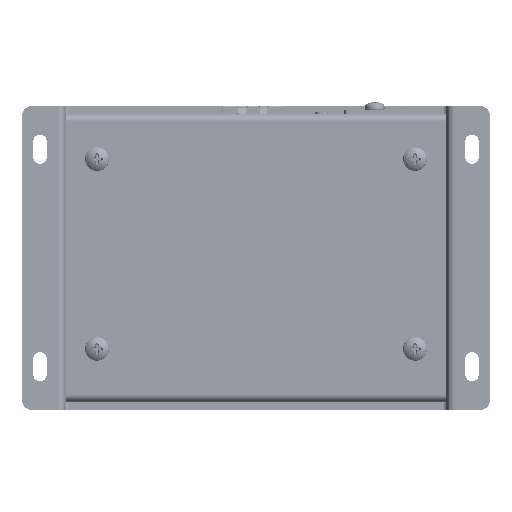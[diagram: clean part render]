
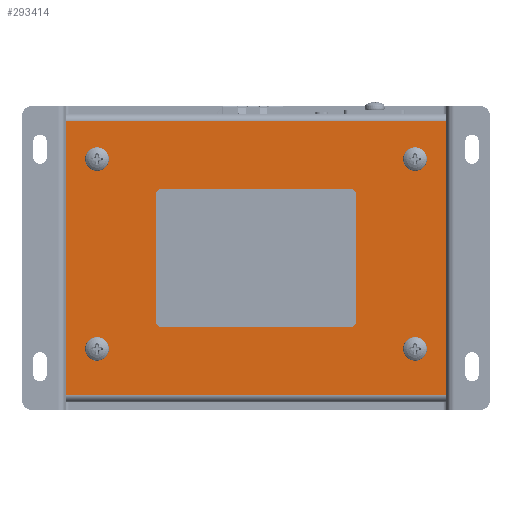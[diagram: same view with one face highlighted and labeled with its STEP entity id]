
A CAD part, front view. The second image highlights one B-rep face of the part: STEP entity #293414.
In plain terms, the highlighted planar face has unit normal (0, -1, 0).
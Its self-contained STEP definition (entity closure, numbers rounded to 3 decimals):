
#4618 = CIRCLE ( 'NONE', #82271, 1.7 ) ;
#7495 = EDGE_CURVE ( 'NONE', #79572, #79572, #20839, .T. ) ;
#7861 = CARTESIAN_POINT ( 'NONE',  ( 48.225, 8.231, 11.48 ) ) ;
#14317 = CARTESIAN_POINT ( 'NONE',  ( 48.225, 8.231, -58.609 ) ) ;
#16537 = CIRCLE ( 'NONE', #260176, 1.7 ) ;
#18491 = CARTESIAN_POINT ( 'NONE',  ( -47.775, 8.231, 11.48 ) ) ;
#18718 = VERTEX_POINT ( 'NONE', #250971 ) ;
#20186 = CARTESIAN_POINT ( 'NONE',  ( 40.425, 8.231, -47.02 ) ) ;
#20839 = CIRCLE ( 'NONE', #131377, 1.7 ) ;
#27580 = CARTESIAN_POINT ( 'NONE',  ( -39.975, 8.231, -0.72 ) ) ;
#32234 = CARTESIAN_POINT ( 'NONE',  ( 48.225, 8.231, 10.569 ) ) ;
#41285 = VERTEX_POINT ( 'NONE', #91555 ) ;
#43496 = EDGE_LOOP ( 'NONE', ( #131025, #273968, #323145, #119447 ) ) ;
#56682 = ORIENTED_EDGE ( 'NONE', *, *, #113615, .F. ) ;
#61169 = VERTEX_POINT ( 'NONE', #32234 ) ;
#63273 = PLANE ( 'NONE',  #112233 ) ;
#67077 = DIRECTION ( 'NONE',  ( 0., -1., 0. ) ) ;
#70529 = DIRECTION ( 'NONE',  ( -1., 0., 0. ) ) ;
#72715 = ORIENTED_EDGE ( 'NONE', *, *, #7495, .F. ) ;
#74878 = EDGE_CURVE ( 'NONE', #61169, #143402, #240065, .T. ) ;
#79572 = VERTEX_POINT ( 'NONE', #27580 ) ;
#82271 = AXIS2_PLACEMENT_3D ( 'NONE', #20186, #67077, #231556 ) ;
#85794 = FACE_BOUND ( 'NONE', #342870, .T. ) ;
#91555 = CARTESIAN_POINT ( 'NONE',  ( -39.975, 8.231, -48.72 ) ) ;
#92273 = DIRECTION ( 'NONE',  ( -1., 0., 0. ) ) ;
#94809 = LINE ( 'NONE', #229898, #298476 ) ;
#107652 = ORIENTED_EDGE ( 'NONE', *, *, #308685, .F. ) ;
#112233 = AXIS2_PLACEMENT_3D ( 'NONE', #321479, #298914, #189805 ) ;
#113615 = EDGE_CURVE ( 'NONE', #271820, #271820, #16537, .T. ) ;
#115236 = FACE_BOUND ( 'NONE', #306475, .T. ) ;
#119447 = ORIENTED_EDGE ( 'NONE', *, *, #296561, .T. ) ;
#131025 = ORIENTED_EDGE ( 'NONE', *, *, #214830, .T. ) ;
#131377 = AXIS2_PLACEMENT_3D ( 'NONE', #184146, #210119, #156422 ) ;
#136063 = DIRECTION ( 'NONE',  ( 0., 0., -1. ) ) ;
#139525 = FACE_BOUND ( 'NONE', #255776, .T. ) ;
#143402 = VERTEX_POINT ( 'NONE', #327136 ) ;
#145525 = EDGE_CURVE ( 'NONE', #143402, #284491, #298533, .T. ) ;
#145602 = VERTEX_POINT ( 'NONE', #166889 ) ;
#151888 = DIRECTION ( 'NONE',  ( 0., 0., -1. ) ) ;
#156422 = DIRECTION ( 'NONE',  ( 0., 0., -1. ) ) ;
#166689 = CIRCLE ( 'NONE', #305181, 1.7 ) ;
#166889 = CARTESIAN_POINT ( 'NONE',  ( -47.775, 8.231, 10.569 ) ) ;
#168562 = DIRECTION ( 'NONE',  ( 0., -1., 0. ) ) ;
#174482 = LINE ( 'NONE', #18491, #339408 ) ;
#184146 = CARTESIAN_POINT ( 'NONE',  ( -39.975, 8.231, 0.98 ) ) ;
#189805 = DIRECTION ( 'NONE',  ( 0., 0., 1. ) ) ;
#206902 = EDGE_LOOP ( 'NONE', ( #107652 ) ) ;
#210119 = DIRECTION ( 'NONE',  ( 0., -1., 0. ) ) ;
#214830 = EDGE_CURVE ( 'NONE', #145602, #284491, #174482, .T. ) ;
#229898 = CARTESIAN_POINT ( 'NONE',  ( 48.225, 8.231, 10.569 ) ) ;
#231556 = DIRECTION ( 'NONE',  ( 0., 0., -1. ) ) ;
#240065 = LINE ( 'NONE', #7861, #274495 ) ;
#245198 = FACE_BOUND ( 'NONE', #206902, .T. ) ;
#248228 = DIRECTION ( 'NONE',  ( 0., 0., -1. ) ) ;
#250971 = CARTESIAN_POINT ( 'NONE',  ( 40.425, 8.231, -48.72 ) ) ;
#255776 = EDGE_LOOP ( 'NONE', ( #56682 ) ) ;
#260176 = AXIS2_PLACEMENT_3D ( 'NONE', #300223, #168562, #248228 ) ;
#268318 = ORIENTED_EDGE ( 'NONE', *, *, #295843, .F. ) ;
#271030 = CARTESIAN_POINT ( 'NONE',  ( -47.775, 8.231, -58.609 ) ) ;
#271820 = VERTEX_POINT ( 'NONE', #275266 ) ;
#273968 = ORIENTED_EDGE ( 'NONE', *, *, #145525, .F. ) ;
#274495 = VECTOR ( 'NONE', #136063, 1000. ) ;
#275266 = CARTESIAN_POINT ( 'NONE',  ( 40.425, 8.231, -0.72 ) ) ;
#278092 = DIRECTION ( 'NONE',  ( 0., -1., 0. ) ) ;
#284491 = VERTEX_POINT ( 'NONE', #271030 ) ;
#293414 = ADVANCED_FACE ( 'NONE', ( #328373, #245198, #139525, #115236, #85794 ), #63273, .F. ) ;
#295843 = EDGE_CURVE ( 'NONE', #18718, #18718, #4618, .T. ) ;
#296561 = EDGE_CURVE ( 'NONE', #61169, #145602, #94809, .T. ) ;
#298476 = VECTOR ( 'NONE', #70529, 1000. ) ;
#298533 = LINE ( 'NONE', #14317, #331482 ) ;
#298914 = DIRECTION ( 'NONE',  ( 0., 1., 0. ) ) ;
#300223 = CARTESIAN_POINT ( 'NONE',  ( 40.425, 8.231, 0.98 ) ) ;
#305181 = AXIS2_PLACEMENT_3D ( 'NONE', #305773, #278092, #335190 ) ;
#305773 = CARTESIAN_POINT ( 'NONE',  ( -39.975, 8.231, -47.02 ) ) ;
#306475 = EDGE_LOOP ( 'NONE', ( #72715 ) ) ;
#308685 = EDGE_CURVE ( 'NONE', #41285, #41285, #166689, .T. ) ;
#321479 = CARTESIAN_POINT ( 'NONE',  ( 48.225, 8.231, 11.48 ) ) ;
#323145 = ORIENTED_EDGE ( 'NONE', *, *, #74878, .F. ) ;
#327136 = CARTESIAN_POINT ( 'NONE',  ( 48.225, 8.231, -58.609 ) ) ;
#328373 = FACE_OUTER_BOUND ( 'NONE', #43496, .T. ) ;
#331482 = VECTOR ( 'NONE', #92273, 1000. ) ;
#335190 = DIRECTION ( 'NONE',  ( 0., 0., -1. ) ) ;
#339408 = VECTOR ( 'NONE', #151888, 1000. ) ;
#342870 = EDGE_LOOP ( 'NONE', ( #268318 ) ) ;
